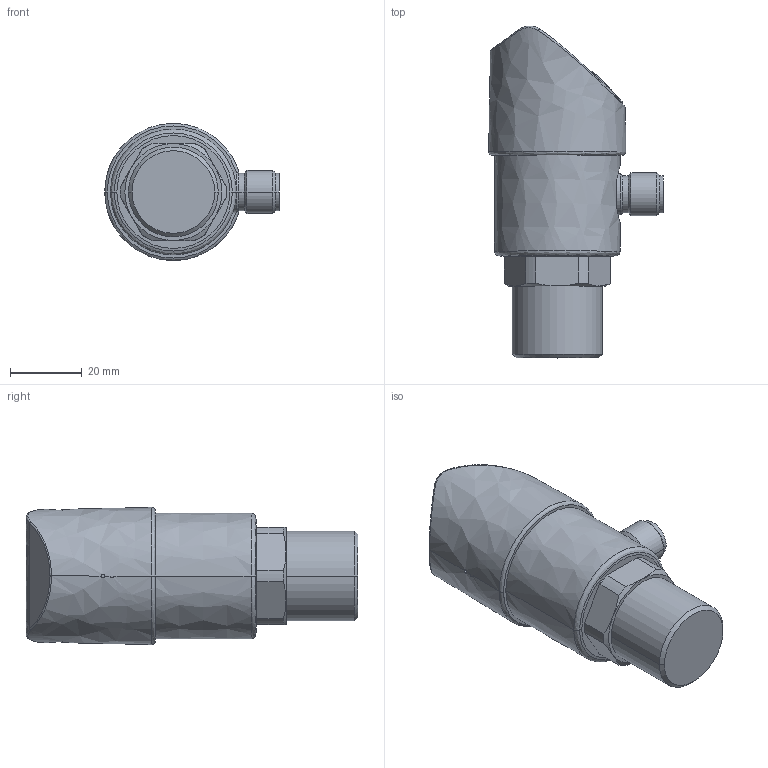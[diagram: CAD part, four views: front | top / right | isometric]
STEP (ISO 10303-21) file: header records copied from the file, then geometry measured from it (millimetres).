
FILE_DESCRIPTION((''),'2;1');
FILE_NAME('TR02338_______________SW0001','2015-06-26T',('EicherN'),(''),'PRO/ENGINEER BY PARAMETRIC TECHNOLOGY CORPORATION, 2013230','PRO/ENGINEER BY PARAMETRIC TECHNOLOGY CORPORATION, 2013230','');
FILE_SCHEMA(('AUTOMOTIVE_DESIGN { 1 0 10303 214 1 1 1 1 }'));
Products named in the file (1): TR02338_______________SW0001
Bounding box: 48.61 x 92.36 x 38.21 mm (x, y, z)
Volume: 63599.3 mm3; surface area: 16982.2 mm2
Topology: 1 solids, 8 shells, 987 faces, 2675 edges, 1740 vertices
Faces by surface type: bspline 987
Entity records: 48287 total; most frequent: CARTESIAN_POINT 28124, ORIENTED_EDGE 5330, EDGE_CURVE 2665, DIRECTION 1837, VERTEX_POINT 1740, VECTOR 1295, LINE 1295, B_SPLINE_CURVE_WITH_KNOTS 1099
